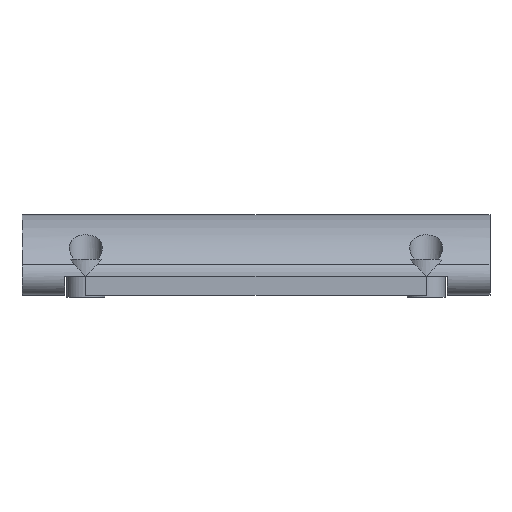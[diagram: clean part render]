
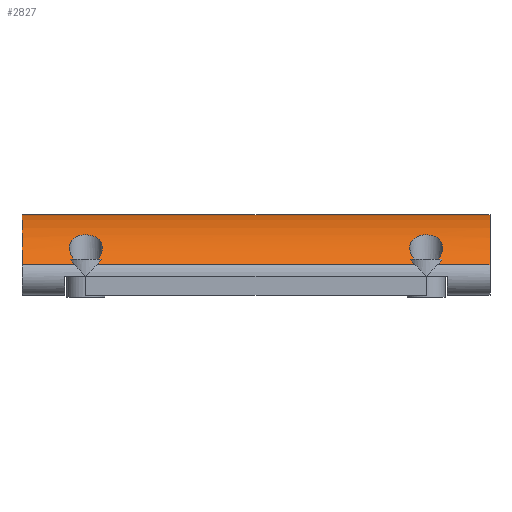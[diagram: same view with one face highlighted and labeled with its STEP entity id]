
A CAD part, top view. The second image highlights one B-rep face of the part: STEP entity #2827.
In plain terms, the highlighted cylindrical face has radius 23.6 mm (diameter 47.2 mm), a partial arc.
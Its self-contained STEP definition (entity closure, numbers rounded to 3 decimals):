
#28=LINE('',#4333,#229);
#29=LINE('',#4334,#230);
#44=LINE('',#4414,#245);
#46=LINE('',#4422,#247);
#48=LINE('',#4428,#249);
#49=LINE('',#4437,#250);
#50=LINE('',#4453,#251);
#51=LINE('',#4460,#252);
#52=LINE('',#4464,#253);
#53=LINE('',#4466,#254);
#229=VECTOR('',#3390,1000.);
#230=VECTOR('',#3391,1000.);
#245=VECTOR('',#3438,1000.);
#247=VECTOR('',#3446,1000.);
#249=VECTOR('',#3452,1000.);
#250=VECTOR('',#3455,1000.);
#251=VECTOR('',#3456,1000.);
#252=VECTOR('',#3457,1000.);
#253=VECTOR('',#3460,1000.);
#254=VECTOR('',#3461,1000.);
#522=B_SPLINE_CURVE_WITH_KNOTS('',3,(#4300,#4301,#4302,#4303),
 .UNSPECIFIED.,.F.,.F.,(4,4),(0.,0.002),
 .UNSPECIFIED.);
#523=B_SPLINE_CURVE_WITH_KNOTS('',3,(#4309,#4310,#4311,#4312),
 .UNSPECIFIED.,.F.,.F.,(4,4),(0.02,0.022),
 .UNSPECIFIED.);
#524=B_SPLINE_CURVE_WITH_KNOTS('',3,(#4314,#4315,#4316,#4317,#4318,#4319,
#4320,#4321,#4322,#4323,#4324,#4325,#4326),.UNSPECIFIED.,.F.,.F.,(4,1,1,
1,1,1,1,1,1,1,4),(0.,0.002,0.004,0.006,
0.008,0.009,0.01,0.011,
0.013,0.015,0.017),.UNSPECIFIED.);
#529=B_SPLINE_CURVE_WITH_KNOTS('',3,(#4432,#4433,#4434,#4435),
 .UNSPECIFIED.,.F.,.F.,(4,4),(0.,0.002),
 .UNSPECIFIED.);
#530=B_SPLINE_CURVE_WITH_KNOTS('',3,(#4439,#4440,#4441,#4442,#4443,#4444,
#4445,#4446,#4447,#4448,#4449,#4450,#4451),.UNSPECIFIED.,.F.,.F.,(4,1,1,
1,1,1,1,1,1,1,4),(0.,0.002,0.004,
0.006,0.008,0.009,0.01,
0.011,0.013,0.015,0.017),
 .UNSPECIFIED.);
#531=B_SPLINE_CURVE_WITH_KNOTS('',3,(#4455,#4456,#4457,#4458),
 .UNSPECIFIED.,.F.,.F.,(4,4),(0.02,0.022),
 .UNSPECIFIED.);
#601=ORIENTED_EDGE('',*,*,#1415,.T.);
#602=ORIENTED_EDGE('',*,*,#1416,.F.);
#603=ORIENTED_EDGE('',*,*,#1408,.F.);
#604=ORIENTED_EDGE('',*,*,#1369,.T.);
#605=ORIENTED_EDGE('',*,*,#1376,.F.);
#606=ORIENTED_EDGE('',*,*,#1373,.T.);
#607=ORIENTED_EDGE('',*,*,#1377,.F.);
#608=ORIENTED_EDGE('',*,*,#1372,.T.);
#609=ORIENTED_EDGE('',*,*,#1412,.F.);
#610=ORIENTED_EDGE('',*,*,#1417,.T.);
#611=ORIENTED_EDGE('',*,*,#1418,.T.);
#612=ORIENTED_EDGE('',*,*,#1419,.T.);
#613=ORIENTED_EDGE('',*,*,#1420,.T.);
#614=ORIENTED_EDGE('',*,*,#1421,.T.);
#615=ORIENTED_EDGE('',*,*,#1422,.F.);
#616=ORIENTED_EDGE('',*,*,#1423,.T.);
#617=ORIENTED_EDGE('',*,*,#1424,.T.);
#618=ORIENTED_EDGE('',*,*,#1425,.T.);
#1369=EDGE_CURVE('',#1779,#1777,#522,.T.);
#1372=EDGE_CURVE('',#1778,#1781,#523,.T.);
#1373=EDGE_CURVE('',#1782,#1783,#524,.T.);
#1376=EDGE_CURVE('',#1782,#1777,#28,.T.);
#1377=EDGE_CURVE('',#1778,#1783,#29,.T.);
#1408=EDGE_CURVE('',#1779,#1815,#44,.T.);
#1412=EDGE_CURVE('',#1818,#1781,#46,.T.);
#1415=EDGE_CURVE('',#1820,#1821,#48,.T.);
#1416=EDGE_CURVE('',#1815,#1821,#2074,.T.);
#1417=EDGE_CURVE('',#1818,#1822,#529,.T.);
#1418=EDGE_CURVE('',#1822,#1823,#49,.T.);
#1419=EDGE_CURVE('',#1823,#1824,#530,.T.);
#1420=EDGE_CURVE('',#1824,#1825,#50,.T.);
#1421=EDGE_CURVE('',#1825,#1826,#531,.T.);
#1422=EDGE_CURVE('',#1827,#1826,#51,.T.);
#1423=EDGE_CURVE('',#1827,#1828,#2075,.T.);
#1424=EDGE_CURVE('',#1828,#1829,#52,.T.);
#1425=EDGE_CURVE('',#1829,#1820,#53,.T.);
#1777=VERTEX_POINT('',#4298);
#1778=VERTEX_POINT('',#4299);
#1779=VERTEX_POINT('',#4304);
#1781=VERTEX_POINT('',#4308);
#1782=VERTEX_POINT('',#4327);
#1783=VERTEX_POINT('',#4328);
#1815=VERTEX_POINT('',#4415);
#1818=VERTEX_POINT('',#4423);
#1820=VERTEX_POINT('',#4429);
#1821=VERTEX_POINT('',#4430);
#1822=VERTEX_POINT('',#4436);
#1823=VERTEX_POINT('',#4438);
#1824=VERTEX_POINT('',#4452);
#1825=VERTEX_POINT('',#4454);
#1826=VERTEX_POINT('',#4459);
#1827=VERTEX_POINT('',#4461);
#1828=VERTEX_POINT('',#4463);
#1829=VERTEX_POINT('',#4465);
#2074=CIRCLE('',#3041,23.6);
#2075=CIRCLE('',#3042,23.6);
#2240=EDGE_LOOP('',(#601,#602,#603,#604,#605,#606,#607,#608,#609,#610,#611,
#612,#613,#614,#615,#616,#617,#618));
#2491=FACE_BOUND('',#2240,.T.);
#2740=CYLINDRICAL_SURFACE('',#3040,23.6);
#2827=ADVANCED_FACE('',(#2491),#2740,.T.);
#3040=AXIS2_PLACEMENT_3D('',#4427,#3450,#3451);
#3041=AXIS2_PLACEMENT_3D('',#4431,#3453,#3454);
#3042=AXIS2_PLACEMENT_3D('',#4462,#3458,#3459);
#3390=DIRECTION('',(-1.,0.,0.));
#3391=DIRECTION('',(-1.,0.,0.));
#3438=DIRECTION('',(-1.,0.,0.));
#3446=DIRECTION('',(-1.,0.,0.));
#3450=DIRECTION('',(-1.,0.,0.));
#3451=DIRECTION('',(0.,0.,1.));
#3452=DIRECTION('',(-1.,0.,0.));
#3453=DIRECTION('',(-1.,0.,0.));
#3454=DIRECTION('',(0.,-1.,0.));
#3455=DIRECTION('',(1.,0.,0.));
#3456=DIRECTION('',(1.,0.,0.));
#3457=DIRECTION('',(-1.,0.,0.));
#3458=DIRECTION('',(-1.,0.,0.));
#3459=DIRECTION('',(0.,-1.,0.));
#3460=DIRECTION('',(-1.,0.,0.));
#3461=DIRECTION('',(-1.,0.,0.));
#4298=CARTESIAN_POINT('',(-34.957,3.2,18.053));
#4299=CARTESIAN_POINT('',(-29.043,3.2,18.053));
#4300=CARTESIAN_POINT('',(-34.16,2.16,18.88));
#4301=CARTESIAN_POINT('',(-34.486,2.486,18.636));
#4302=CARTESIAN_POINT('',(-34.745,2.837,18.359));
#4303=CARTESIAN_POINT('',(-34.957,3.2,18.053));
#4304=CARTESIAN_POINT('',(-34.16,2.16,18.88));
#4308=CARTESIAN_POINT('',(-29.84,2.16,18.88));
#4309=CARTESIAN_POINT('',(-29.043,3.2,18.053));
#4310=CARTESIAN_POINT('',(-29.255,2.837,18.359));
#4311=CARTESIAN_POINT('',(-29.514,2.486,18.636));
#4312=CARTESIAN_POINT('',(-29.84,2.16,18.88));
#4314=CARTESIAN_POINT('',(-34.323,3.2,18.053));
#4315=CARTESIAN_POINT('',(-34.682,3.684,17.646));
#4316=CARTESIAN_POINT('',(-35.142,4.705,16.717));
#4317=CARTESIAN_POINT('',(-35.127,6.186,15.095));
#4318=CARTESIAN_POINT('',(-34.302,7.2,13.74));
#4319=CARTESIAN_POINT('',(-33.103,7.673,13.037));
#4320=CARTESIAN_POINT('',(-32.019,7.805,12.835));
#4321=CARTESIAN_POINT('',(-30.928,7.682,13.025));
#4322=CARTESIAN_POINT('',(-29.711,7.211,13.724));
#4323=CARTESIAN_POINT('',(-28.876,6.197,15.082));
#4324=CARTESIAN_POINT('',(-28.855,4.713,16.71));
#4325=CARTESIAN_POINT('',(-29.317,3.684,17.645));
#4326=CARTESIAN_POINT('',(-29.677,3.2,18.053));
#4327=CARTESIAN_POINT('',(-34.323,3.2,18.053));
#4328=CARTESIAN_POINT('',(-29.677,3.2,18.053));
#4333=CARTESIAN_POINT('',(16.,3.2,18.053));
#4334=CARTESIAN_POINT('',(16.,3.2,18.053));
#4414=CARTESIAN_POINT('',(44.,2.16,18.88));
#4415=CARTESIAN_POINT('',(-44.,2.16,18.88));
#4422=CARTESIAN_POINT('',(44.,2.16,18.88));
#4423=CARTESIAN_POINT('',(29.84,2.16,18.88));
#4427=CARTESIAN_POINT('',(44.,-12.,0.));
#4428=CARTESIAN_POINT('',(44.,11.6,0.));
#4429=CARTESIAN_POINT('',(-32.,11.6,0.));
#4430=CARTESIAN_POINT('',(-44.,11.6,0.));
#4431=CARTESIAN_POINT('',(-44.,-12.,0.));
#4432=CARTESIAN_POINT('',(29.84,2.16,18.88));
#4433=CARTESIAN_POINT('',(29.514,2.486,18.636));
#4434=CARTESIAN_POINT('',(29.255,2.837,18.359));
#4435=CARTESIAN_POINT('',(29.043,3.2,18.053));
#4436=CARTESIAN_POINT('',(29.043,3.2,18.053));
#4437=CARTESIAN_POINT('',(-16.,3.2,18.053));
#4438=CARTESIAN_POINT('',(29.677,3.2,18.053));
#4439=CARTESIAN_POINT('',(29.677,3.2,18.053));
#4440=CARTESIAN_POINT('',(29.318,3.684,17.646));
#4441=CARTESIAN_POINT('',(28.858,4.705,16.717));
#4442=CARTESIAN_POINT('',(28.873,6.186,15.095));
#4443=CARTESIAN_POINT('',(29.698,7.2,13.74));
#4444=CARTESIAN_POINT('',(30.897,7.673,13.037));
#4445=CARTESIAN_POINT('',(31.981,7.805,12.835));
#4446=CARTESIAN_POINT('',(33.072,7.682,13.025));
#4447=CARTESIAN_POINT('',(34.289,7.211,13.724));
#4448=CARTESIAN_POINT('',(35.124,6.197,15.082));
#4449=CARTESIAN_POINT('',(35.145,4.713,16.71));
#4450=CARTESIAN_POINT('',(34.683,3.684,17.645));
#4451=CARTESIAN_POINT('',(34.323,3.2,18.053));
#4452=CARTESIAN_POINT('',(34.323,3.2,18.053));
#4453=CARTESIAN_POINT('',(-16.,3.2,18.053));
#4454=CARTESIAN_POINT('',(34.957,3.2,18.053));
#4455=CARTESIAN_POINT('',(34.957,3.2,18.053));
#4456=CARTESIAN_POINT('',(34.745,2.837,18.359));
#4457=CARTESIAN_POINT('',(34.486,2.486,18.636));
#4458=CARTESIAN_POINT('',(34.16,2.16,18.88));
#4459=CARTESIAN_POINT('',(34.16,2.16,18.88));
#4460=CARTESIAN_POINT('',(44.,2.16,18.88));
#4461=CARTESIAN_POINT('',(44.,2.16,18.88));
#4462=CARTESIAN_POINT('',(44.,-12.,0.));
#4463=CARTESIAN_POINT('',(44.,11.6,0.));
#4464=CARTESIAN_POINT('',(44.,11.6,0.));
#4465=CARTESIAN_POINT('',(32.,11.6,0.));
#4466=CARTESIAN_POINT('',(44.,11.6,0.));
